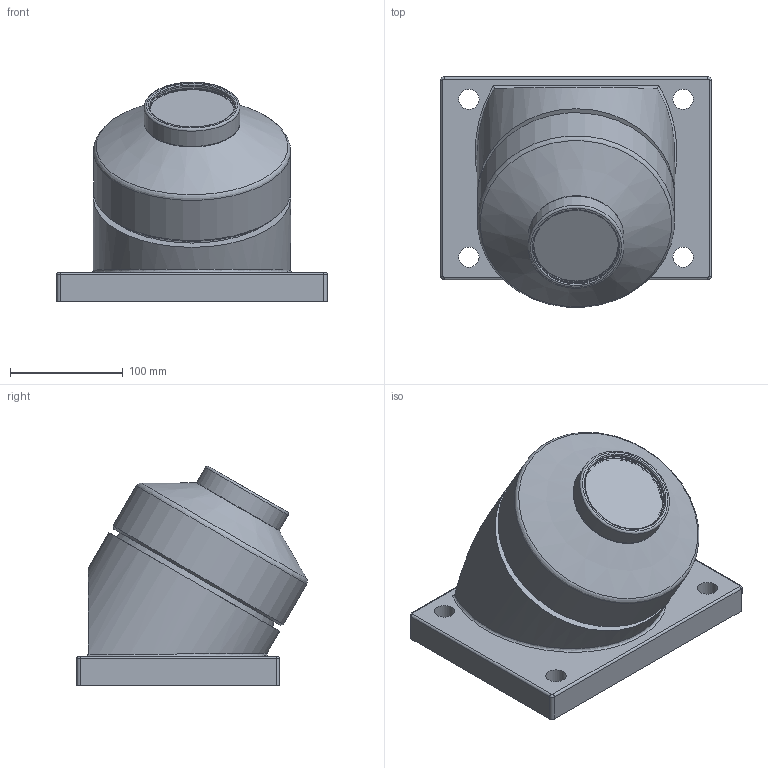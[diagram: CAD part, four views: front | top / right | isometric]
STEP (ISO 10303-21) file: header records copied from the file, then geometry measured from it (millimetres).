
FILE_DESCRIPTION(/* description */ (''),/* implementation_level */ '2;1');
FILE_NAME(/* name */ 'Z:\34-Tei\01-web 3Dデータ\SW車輪\SW-180-K.stp',/* time_stamp */ '2015-03-17T16:48:47+09:00',/* author */ ('yamaki'),/* organization */ (''),/* preprocessor_version */ 'ST-DEVELOPER v15.6',/* originating_system */ 'Autodesk Inventor 2015',/* authorisation */ '');
FILE_SCHEMA (('AUTOMOTIVE_DESIGN { 1 0 10303 214 3 1 1 }'));
Length unit declared in the file: centimetre
Products named in the file (1): SW-180-K
Bounding box: 240 x 204.47 x 194.79 mm (x, y, z)
Volume: 3118714.7 mm3; surface area: 321104.7 mm2
Topology: 1 solids, 3 shells, 105 faces, 212 edges, 135 vertices
Faces by surface type: cylinder 41, plane 34, cone 15, torus 8, bspline 7
Full cylindrical faces by diameter (mm): 5 x1, 8 x1, 18 x4, 30 x1, 35 x2, 38 x2, 45 x1, 46 x1, 56 x1, 64 x2, 65 x1, 72 x1, 72.1 x1, 73 x1, 75 x1, 75.5 x2, 78 x1, 84.933 x1, 90 x1, 135.1 x1, 137 x1, 138 x1, 175 x2
Entity records: 2976 total; most frequent: CARTESIAN_POINT 862, DIRECTION 436, ORIENTED_EDGE 288, AXIS2_PLACEMENT_3D 207, EDGE_LOOP 194, EDGE_CURVE 144, VERTEX_POINT 122, STYLED_ITEM 106
